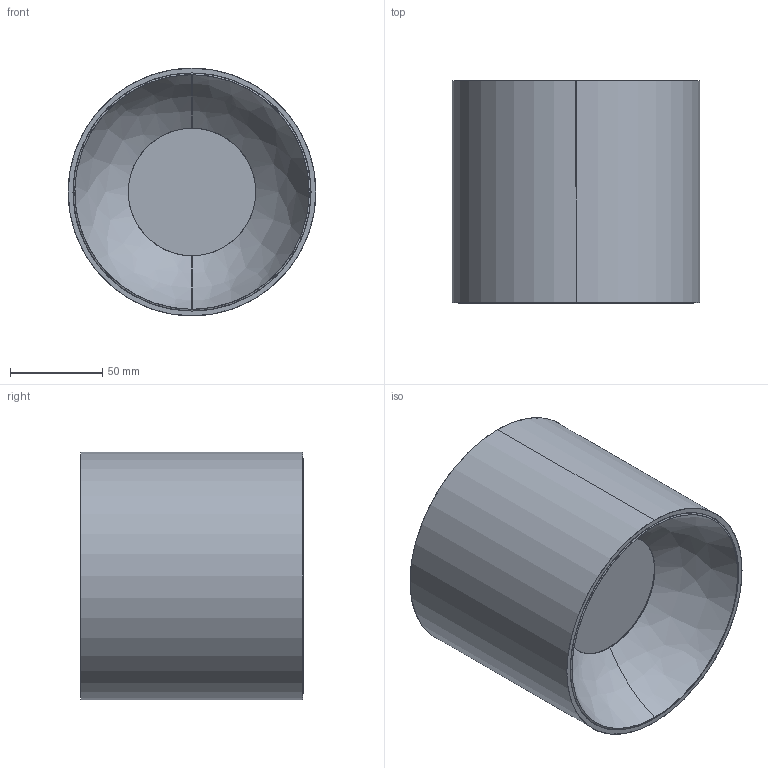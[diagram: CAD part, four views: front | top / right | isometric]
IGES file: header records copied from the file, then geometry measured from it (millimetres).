
Start section: SolidWorks IGES file using analytic representation for surfaces
Global section: file name: F:\GABRYSIA\MODELE 3D\OPRAWY\CL-IOS-LED-8736-8737-8741-8742-8738-8740-8743-8744-WWW\CL-IOS-LED-8736-8737-8741-8742-8738-8740-8743-8744\CL-IOS-LED-8736-8737-8741-8742-8738-8740-8743-8744.IGS; native system: SolidWorks 2017; preprocessor: SolidWorks 2017; author: Togambi; date: 200917.140226; units: millimetre
Bounding box: 134 x 120.35 x 134 mm (x, y, z)
Surface area: 167855.9 mm2 (no closed solid volume)
Topology: 0 solids, 0 shells, 99 faces, 1813 edges, 1813 vertices
Faces by surface type: bspline 61, revolution 38
